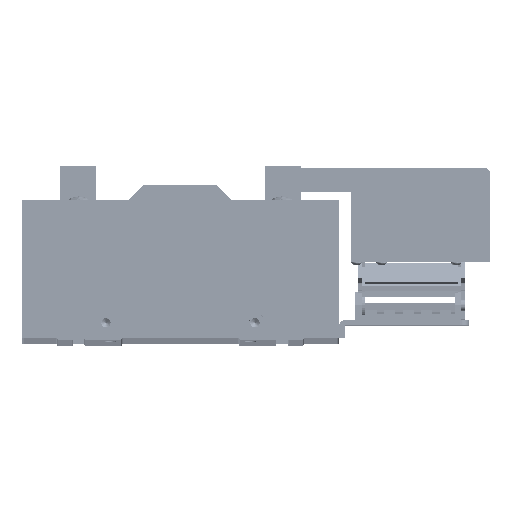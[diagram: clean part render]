
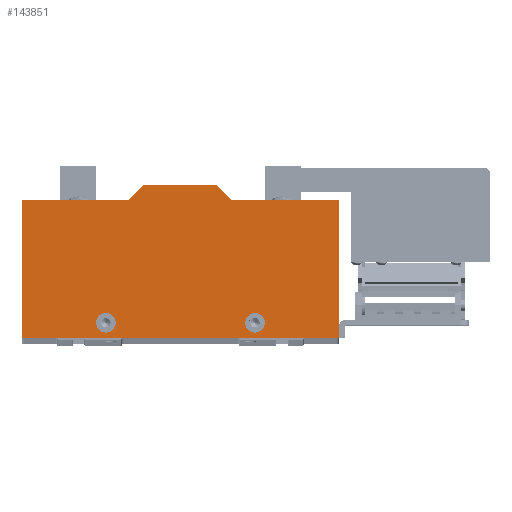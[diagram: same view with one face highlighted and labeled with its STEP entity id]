
A CAD part, top view. The second image highlights one B-rep face of the part: STEP entity #143851.
In plain terms, the highlighted planar face has unit normal (0, 0, 1).
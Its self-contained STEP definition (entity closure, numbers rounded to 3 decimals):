
#111776 = CARTESIAN_POINT ( 'NONE',  ( 19.5, 45., 9.525 ) ) ;
#112382 = DIRECTION ( 'NONE',  ( -0.707, 0.707, 0. ) ) ;
#112383 = VECTOR ( 'NONE', #112382, 1000. ) ;
#112482 = CARTESIAN_POINT ( 'NONE',  ( -34.75, -29., 9.525 ) ) ;
#112483 = DIRECTION ( 'NONE',  ( 1., 0., 0. ) ) ;
#112484 = DIRECTION ( 'NONE',  ( 0., 0., 1. ) ) ;
#112486 = CARTESIAN_POINT ( 'NONE',  ( -40., -29., 9.525 ) ) ;
#112487 = AXIS2_PLACEMENT_3D ( 'NONE', #112486, #112484, #112483 ) ;
#112488 = CIRCLE ( 'NONE', #112487, 5.25 ) ;
#112490 = CARTESIAN_POINT ( 'NONE',  ( -45.25, -29., 9.525 ) ) ;
#112561 = DIRECTION ( 'NONE',  ( 1., 0., 0. ) ) ;
#112562 = DIRECTION ( 'NONE',  ( 0., 0., 1. ) ) ;
#112563 = CARTESIAN_POINT ( 'NONE',  ( 40., -29., 9.525 ) ) ;
#112566 = AXIS2_PLACEMENT_3D ( 'NONE', #112563, #112562, #112561 ) ;
#112567 = CIRCLE ( 'NONE', #112566, 5.25 ) ;
#112569 = CARTESIAN_POINT ( 'NONE',  ( 85., -37., 9.525 ) ) ;
#112629 = CARTESIAN_POINT ( 'NONE',  ( -85., 37., 9.525 ) ) ;
#112630 = DIRECTION ( 'NONE',  ( 0., -1., 0. ) ) ;
#112631 = VECTOR ( 'NONE', #112630, 1000. ) ;
#112633 = CARTESIAN_POINT ( 'NONE',  ( -85., 37., 9.525 ) ) ;
#112634 = LINE ( 'NONE', #112633, #112631 ) ;
#112637 = CARTESIAN_POINT ( 'NONE',  ( -85., -37., 9.525 ) ) ;
#112681 = DIRECTION ( 'NONE',  ( -1., 0., 0. ) ) ;
#112682 = VECTOR ( 'NONE', #112681, 1000. ) ;
#112683 = CARTESIAN_POINT ( 'NONE',  ( -19.5, 45., 9.525 ) ) ;
#112684 = LINE ( 'NONE', #112683, #112682 ) ;
#112685 = CARTESIAN_POINT ( 'NONE',  ( -19.5, 45., 9.525 ) ) ;
#112700 = LINE ( 'NONE', #111776, #112383 ) ;
#112702 = CARTESIAN_POINT ( 'NONE',  ( -27.5, 37., 9.525 ) ) ;
#112709 = CARTESIAN_POINT ( 'NONE',  ( 45.25, -29., 9.525 ) ) ;
#112710 = CARTESIAN_POINT ( 'NONE',  ( 34.75, -29., 9.525 ) ) ;
#112715 = DIRECTION ( 'NONE',  ( 1., 0., 0. ) ) ;
#112716 = VECTOR ( 'NONE', #112715, 1000. ) ;
#112717 = CARTESIAN_POINT ( 'NONE',  ( -85., -37., 9.525 ) ) ;
#112718 = LINE ( 'NONE', #112717, #112716 ) ;
#112751 = CARTESIAN_POINT ( 'NONE',  ( 27.5, 37., 9.525 ) ) ;
#112794 = DIRECTION ( 'NONE',  ( 0., 1., 0. ) ) ;
#112795 = VECTOR ( 'NONE', #112794, 1000. ) ;
#112796 = CARTESIAN_POINT ( 'NONE',  ( 85., 37., 9.525 ) ) ;
#112797 = LINE ( 'NONE', #112796, #112795 ) ;
#112798 = CARTESIAN_POINT ( 'NONE',  ( 85., 37., 9.525 ) ) ;
#112815 = DIRECTION ( 'NONE',  ( 1., 0., 0. ) ) ;
#112816 = DIRECTION ( 'NONE',  ( 0., 0., 1. ) ) ;
#112817 = CARTESIAN_POINT ( 'NONE',  ( -40., -29., 9.525 ) ) ;
#112818 = AXIS2_PLACEMENT_3D ( 'NONE', #112817, #112816, #112815 ) ;
#112819 = CIRCLE ( 'NONE', #112818, 5.25 ) ;
#112820 = DIRECTION ( 'NONE',  ( 1., 0., 0. ) ) ;
#112821 = DIRECTION ( 'NONE',  ( 0., 0., 1. ) ) ;
#112822 = CARTESIAN_POINT ( 'NONE',  ( -85., 37., 9.525 ) ) ;
#112823 = AXIS2_PLACEMENT_3D ( 'NONE', #112822, #112821, #112820 ) ;
#112824 = PLANE ( 'NONE',  #112823 ) ;
#112827 = FACE_OUTER_BOUND ( 'NONE', #143963, .T. ) ;
#112828 = FACE_BOUND ( 'NONE', #143860, .T. ) ;
#112829 = FACE_BOUND ( 'NONE', #143855, .T. ) ;
#112830 = DIRECTION ( 'NONE',  ( -0.707, -0.707, 0. ) ) ;
#112831 = VECTOR ( 'NONE', #112830, 1000. ) ;
#112832 = CARTESIAN_POINT ( 'NONE',  ( -27.5, 37., 9.525 ) ) ;
#112833 = LINE ( 'NONE', #112832, #112831 ) ;
#112834 = DIRECTION ( 'NONE',  ( -1., 0., 0. ) ) ;
#112835 = VECTOR ( 'NONE', #112834, 1000. ) ;
#112836 = CARTESIAN_POINT ( 'NONE',  ( -85., 37., 9.525 ) ) ;
#112837 = LINE ( 'NONE', #112836, #112835 ) ;
#112853 = DIRECTION ( 'NONE',  ( -1., 0., 0. ) ) ;
#112854 = VECTOR ( 'NONE', #112853, 1000. ) ;
#112857 = CARTESIAN_POINT ( 'NONE',  ( 27.5, 37., 9.525 ) ) ;
#112858 = LINE ( 'NONE', #112857, #112854 ) ;
#112913 = CARTESIAN_POINT ( 'NONE',  ( 19.5, 45., 9.525 ) ) ;
#112938 = DIRECTION ( 'NONE',  ( 1., 0., 0. ) ) ;
#112939 = DIRECTION ( 'NONE',  ( 0., 0., 1. ) ) ;
#112940 = CARTESIAN_POINT ( 'NONE',  ( 40., -29., 9.525 ) ) ;
#112941 = AXIS2_PLACEMENT_3D ( 'NONE', #112940, #112939, #112938 ) ;
#112942 = CIRCLE ( 'NONE', #112941, 5.25 ) ;
#143552 = VERTEX_POINT ( 'NONE', #112490 ) ;
#143557 = EDGE_CURVE ( 'NONE', #143552, #143559, #112488, .T. ) ;
#143559 = VERTEX_POINT ( 'NONE', #112482 ) ;
#143629 = VERTEX_POINT ( 'NONE', #112569 ) ;
#143632 = EDGE_CURVE ( 'NONE', #143757, #143759, #112567, .T. ) ;
#143698 = VERTEX_POINT ( 'NONE', #112637 ) ;
#143702 = EDGE_CURVE ( 'NONE', #143704, #143698, #112634, .T. ) ;
#143704 = VERTEX_POINT ( 'NONE', #112629 ) ;
#143718 = VERTEX_POINT ( 'NONE', #112685 ) ;
#143720 = EDGE_CURVE ( 'NONE', #143914, #143718, #112684, .T. ) ;
#143752 = EDGE_CURVE ( 'NONE', #143698, #143629, #112718, .T. ) ;
#143757 = VERTEX_POINT ( 'NONE', #112710 ) ;
#143759 = VERTEX_POINT ( 'NONE', #112709 ) ;
#143765 = VERTEX_POINT ( 'NONE', #112702 ) ;
#143767 = EDGE_CURVE ( 'NONE', #143795, #143914, #112700, .T. ) ;
#143795 = VERTEX_POINT ( 'NONE', #112751 ) ;
#143811 = VERTEX_POINT ( 'NONE', #112798 ) ;
#143816 = EDGE_CURVE ( 'NONE', #143629, #143811, #112797, .T. ) ;
#143843 = EDGE_CURVE ( 'NONE', #143765, #143704, #112837, .T. ) ;
#143847 = EDGE_CURVE ( 'NONE', #143718, #143765, #112833, .T. ) ;
#143851 = ADVANCED_FACE ( 'NONE', ( #112829, #112828, #112827 ), #112824, .T. ) ;
#143855 = EDGE_LOOP ( 'NONE', ( #143856, #143858 ) ) ;
#143856 = ORIENTED_EDGE ( 'NONE', *, *, #143857, .F. ) ;
#143857 = EDGE_CURVE ( 'NONE', #143559, #143552, #112819, .T. ) ;
#143858 = ORIENTED_EDGE ( 'NONE', *, *, #143557, .F. ) ;
#143860 = EDGE_LOOP ( 'NONE', ( #143958, #143962 ) ) ;
#143895 = EDGE_CURVE ( 'NONE', #143811, #143795, #112858, .T. ) ;
#143914 = VERTEX_POINT ( 'NONE', #112913 ) ;
#143932 = ORIENTED_EDGE ( 'NONE', *, *, #143847, .T. ) ;
#143933 = ORIENTED_EDGE ( 'NONE', *, *, #143843, .T. ) ;
#143958 = ORIENTED_EDGE ( 'NONE', *, *, #143961, .F. ) ;
#143961 = EDGE_CURVE ( 'NONE', #143759, #143757, #112942, .T. ) ;
#143962 = ORIENTED_EDGE ( 'NONE', *, *, #143632, .F. ) ;
#143963 = EDGE_LOOP ( 'NONE', ( #143964, #143966, #143968, #143971, #143973, #143975, #143932, #143933 ) ) ;
#143964 = ORIENTED_EDGE ( 'NONE', *, *, #143702, .T. ) ;
#143966 = ORIENTED_EDGE ( 'NONE', *, *, #143752, .T. ) ;
#143968 = ORIENTED_EDGE ( 'NONE', *, *, #143816, .T. ) ;
#143971 = ORIENTED_EDGE ( 'NONE', *, *, #143895, .T. ) ;
#143973 = ORIENTED_EDGE ( 'NONE', *, *, #143767, .T. ) ;
#143975 = ORIENTED_EDGE ( 'NONE', *, *, #143720, .T. ) ;
